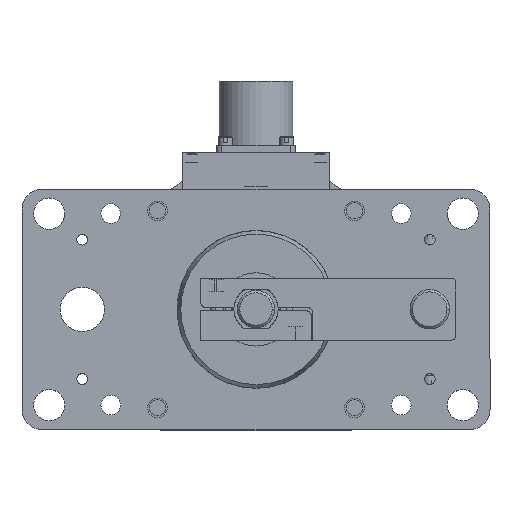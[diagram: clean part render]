
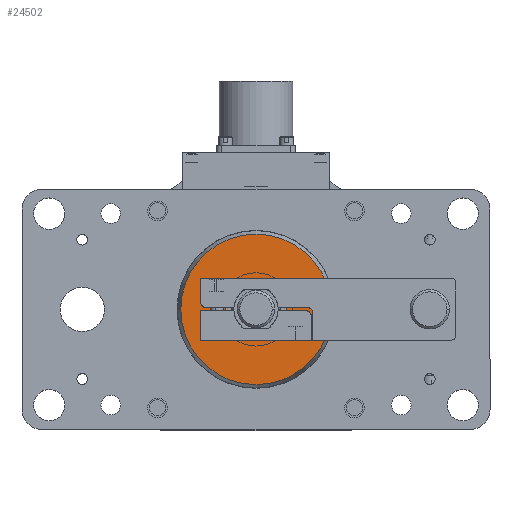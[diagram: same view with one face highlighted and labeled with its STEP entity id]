
A CAD part, top view. The second image highlights one B-rep face of the part: STEP entity #24502.
In plain terms, the highlighted planar face has unit normal (0, 0, 1).
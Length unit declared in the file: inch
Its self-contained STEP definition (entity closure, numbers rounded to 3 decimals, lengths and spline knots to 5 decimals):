
#4471 = VERTEX_POINT ( 'NONE', #35607 ) ;
#5341 = EDGE_CURVE ( 'NONE', #6084, #4471, #35745, .T. ) ;
#5620 = DIRECTION ( 'NONE',  ( 1., 0., 0. ) ) ;
#5621 = DIRECTION ( 'NONE',  ( 0., 0., 1. ) ) ;
#5622 = CARTESIAN_POINT ( 'NONE',  ( -1.273, 1.273, 0. ) ) ;
#5623 = AXIS2_PLACEMENT_3D ( 'NONE', #5622, #5621, #5620 ) ;
#5624 = PLANE ( 'NONE',  #5623 ) ;
#5625 = FACE_BOUND ( 'NONE', #24513, .T. ) ;
#5626 = FACE_OUTER_BOUND ( 'NONE', #24503, .T. ) ;
#5674 = DIRECTION ( 'NONE',  ( 1., 0., 0. ) ) ;
#5675 = DIRECTION ( 'NONE',  ( 0., 0., 1. ) ) ;
#5676 = CARTESIAN_POINT ( 'NONE',  ( 0., 0., 0. ) ) ;
#5677 = AXIS2_PLACEMENT_3D ( 'NONE', #5676, #5675, #5674 ) ;
#5678 = CIRCLE ( 'NONE', #5677, 0.39 ) ;
#5680 = DIRECTION ( 'NONE',  ( 1., 0., 0. ) ) ;
#5681 = DIRECTION ( 'NONE',  ( 0., 0., 1. ) ) ;
#5682 = CARTESIAN_POINT ( 'NONE',  ( 0., 0., 0. ) ) ;
#5683 = AXIS2_PLACEMENT_3D ( 'NONE', #5682, #5681, #5680 ) ;
#5684 = CIRCLE ( 'NONE', #5683, 0.9545 ) ;
#6084 = VERTEX_POINT ( 'NONE', #35835 ) ;
#24502 = ADVANCED_FACE ( 'NONE', ( #5626, #5625 ), #5624, .T. ) ;
#24503 = EDGE_LOOP ( 'NONE', ( #24504, #24509 ) ) ;
#24504 = ORIENTED_EDGE ( 'NONE', *, *, #24506, .T. ) ;
#24506 = EDGE_CURVE ( 'NONE', #53854, #53859, #5684, .T. ) ;
#24509 = ORIENTED_EDGE ( 'NONE', *, *, #53863, .T. ) ;
#24513 = EDGE_LOOP ( 'NONE', ( #24514, #24516 ) ) ;
#24514 = ORIENTED_EDGE ( 'NONE', *, *, #24515, .F. ) ;
#24515 = EDGE_CURVE ( 'NONE', #4471, #6084, #5678, .T. ) ;
#24516 = ORIENTED_EDGE ( 'NONE', *, *, #5341, .F. ) ;
#35607 = CARTESIAN_POINT ( 'NONE',  ( 0.39, 0., 0. ) ) ;
#35738 = DIRECTION ( 'NONE',  ( 1., 0., 0. ) ) ;
#35740 = DIRECTION ( 'NONE',  ( 0., 0., 1. ) ) ;
#35742 = CARTESIAN_POINT ( 'NONE',  ( 0., 0., 0. ) ) ;
#35743 = AXIS2_PLACEMENT_3D ( 'NONE', #35742, #35740, #35738 ) ;
#35745 = CIRCLE ( 'NONE', #35743, 0.39 ) ;
#35835 = CARTESIAN_POINT ( 'NONE',  ( -0.39, 0., 0. ) ) ;
#37579 = DIRECTION ( 'NONE',  ( 1., 0., 0. ) ) ;
#37580 = DIRECTION ( 'NONE',  ( 0., 0., 1. ) ) ;
#37582 = CARTESIAN_POINT ( 'NONE',  ( 0., 0., 0. ) ) ;
#37583 = AXIS2_PLACEMENT_3D ( 'NONE', #37582, #37580, #37579 ) ;
#37584 = CIRCLE ( 'NONE', #37583, 0.9545 ) ;
#37587 = CARTESIAN_POINT ( 'NONE',  ( 0.9545, 0., 0. ) ) ;
#37611 = CARTESIAN_POINT ( 'NONE',  ( -0.9545, 0., 0. ) ) ;
#53854 = VERTEX_POINT ( 'NONE', #37611 ) ;
#53859 = VERTEX_POINT ( 'NONE', #37587 ) ;
#53863 = EDGE_CURVE ( 'NONE', #53859, #53854, #37584, .T. ) ;
